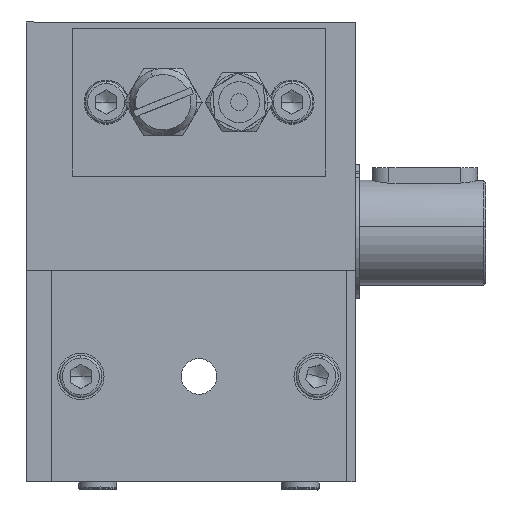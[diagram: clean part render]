
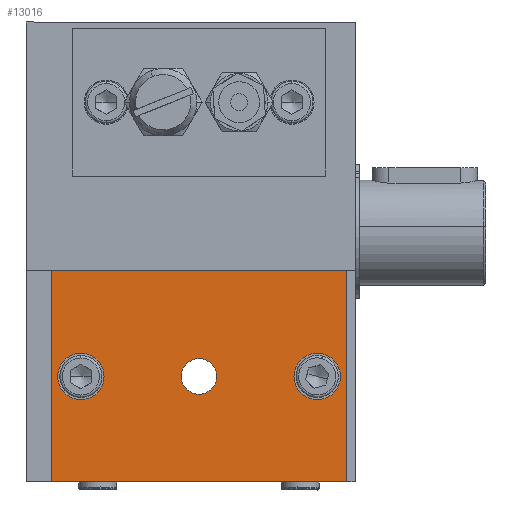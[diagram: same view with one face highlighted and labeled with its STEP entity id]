
A CAD part, front view. The second image highlights one B-rep face of the part: STEP entity #13016.
In plain terms, the highlighted planar face has unit normal (0, -1, 0).
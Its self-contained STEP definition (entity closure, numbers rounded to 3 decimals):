
#4388=CARTESIAN_POINT('',(7.5,-105.,25.));
#4389=VERTEX_POINT('',#4388);
#4405=CARTESIAN_POINT('',(18.5,-105.,25.));
#4406=VERTEX_POINT('',#4405);
#4413=CARTESIAN_POINT('',(13.,-105.,25.));
#4414=DIRECTION('',(0.0,1.0,0.0));
#4415=DIRECTION('',(-1.0,0.0,0.0));
#4416=AXIS2_PLACEMENT_3D('',#4413,#4414,#4415);
#4417=CIRCLE('',#4416,5.5);
#4418=EDGE_CURVE('',#4389,#4406,#4417,.T.);
#4451=CARTESIAN_POINT('',(63.5,-105.,25.));
#4452=VERTEX_POINT('',#4451);
#4468=CARTESIAN_POINT('',(74.5,-105.,25.));
#4469=VERTEX_POINT('',#4468);
#4476=CARTESIAN_POINT('',(69.,-105.,25.));
#4477=DIRECTION('',(0.0,1.0,0.0));
#4478=DIRECTION('',(-1.0,0.0,0.0));
#4479=AXIS2_PLACEMENT_3D('',#4476,#4477,#4478);
#4480=CIRCLE('',#4479,5.5);
#4481=EDGE_CURVE('',#4452,#4469,#4480,.T.);
#4514=CARTESIAN_POINT('',(36.793,-105.,25.));
#4515=VERTEX_POINT('',#4514);
#4531=CARTESIAN_POINT('',(45.207,-105.,25.));
#4532=VERTEX_POINT('',#4531);
#4539=CARTESIAN_POINT('',(41.,-105.,25.));
#4540=DIRECTION('',(0.0,1.0,0.0));
#4541=DIRECTION('',(-1.0,0.0,0.0));
#4542=AXIS2_PLACEMENT_3D('',#4539,#4540,#4541);
#4543=CIRCLE('',#4542,4.207);
#4544=EDGE_CURVE('',#4515,#4532,#4543,.T.);
#12733=CARTESIAN_POINT('',(41.,-105.,25.));
#12734=DIRECTION('',(0.0,1.0,0.0));
#12735=DIRECTION('',(-1.0,0.0,0.0));
#12736=AXIS2_PLACEMENT_3D('',#12733,#12734,#12735);
#12737=CIRCLE('',#12736,4.207);
#12738=EDGE_CURVE('',#4532,#4515,#12737,.T.);
#12792=CARTESIAN_POINT('',(69.,-105.,25.));
#12793=DIRECTION('',(0.0,1.0,0.0));
#12794=DIRECTION('',(-1.0,0.0,0.0));
#12795=AXIS2_PLACEMENT_3D('',#12792,#12793,#12794);
#12796=CIRCLE('',#12795,5.5);
#12797=EDGE_CURVE('',#4469,#4452,#12796,.T.);
#12857=CARTESIAN_POINT('',(13.,-105.,25.));
#12858=DIRECTION('',(0.0,1.0,0.0));
#12859=DIRECTION('',(-1.0,0.0,0.0));
#12860=AXIS2_PLACEMENT_3D('',#12857,#12858,#12859);
#12861=CIRCLE('',#12860,5.5);
#12862=EDGE_CURVE('',#4406,#4389,#12861,.T.);
#12884=CARTESIAN_POINT('',(6.,-105.,50.));
#12885=VERTEX_POINT('',#12884);
#12892=CARTESIAN_POINT('',(76.,-105.,50.));
#12893=VERTEX_POINT('',#12892);
#12894=CARTESIAN_POINT('',(76.,-105.,50.));
#12895=DIRECTION('',(-1.0,0.0,0.0));
#12896=VECTOR('',#12895,70.0);
#12897=LINE('',#12894,#12896);
#12898=EDGE_CURVE('',#12893,#12885,#12897,.T.);
#12922=CARTESIAN_POINT('',(6.,-105.,0.));
#12923=VERTEX_POINT('',#12922);
#12930=CARTESIAN_POINT('',(6.,-105.,50.));
#12931=DIRECTION('',(0.0,0.0,-1.0));
#12932=VECTOR('',#12931,50.);
#12933=LINE('',#12930,#12932);
#12934=EDGE_CURVE('',#12885,#12923,#12933,.T.);
#12953=CARTESIAN_POINT('',(76.,-105.,0.));
#12954=VERTEX_POINT('',#12953);
#12961=CARTESIAN_POINT('',(6.,-105.,0.));
#12962=DIRECTION('',(1.0,0.0,0.0));
#12963=VECTOR('',#12962,70.0);
#12964=LINE('',#12961,#12963);
#12965=EDGE_CURVE('',#12923,#12954,#12964,.T.);
#12983=CARTESIAN_POINT('',(76.,-105.,0.));
#12984=DIRECTION('',(0.0,0.0,1.0));
#12985=VECTOR('',#12984,50.);
#12986=LINE('',#12983,#12985);
#12987=EDGE_CURVE('',#12954,#12893,#12986,.T.);
#12993=CARTESIAN_POINT('',(41.,-105.,25.));
#12994=DIRECTION('',(0.0,1.0,0.0));
#12995=DIRECTION('',(1.0,0.0,0.0));
#12996=AXIS2_PLACEMENT_3D('',#12993,#12994,#12995);
#12997=PLANE('',#12996);
#12998=ORIENTED_EDGE('',*,*,#12987,.T.);
#12999=ORIENTED_EDGE('',*,*,#12898,.T.);
#13000=ORIENTED_EDGE('',*,*,#12934,.T.);
#13001=ORIENTED_EDGE('',*,*,#12965,.T.);
#13002=EDGE_LOOP('',(#12998,#12999,#13000,#13001));
#13003=FACE_OUTER_BOUND('',#13002,.T.);
#13004=ORIENTED_EDGE('',*,*,#4544,.T.);
#13005=ORIENTED_EDGE('',*,*,#12738,.T.);
#13006=EDGE_LOOP('',(#13004,#13005));
#13007=FACE_BOUND('',#13006,.T.);
#13008=ORIENTED_EDGE('',*,*,#4481,.T.);
#13009=ORIENTED_EDGE('',*,*,#12797,.T.);
#13010=EDGE_LOOP('',(#13008,#13009));
#13011=FACE_BOUND('',#13010,.T.);
#13012=ORIENTED_EDGE('',*,*,#4418,.T.);
#13013=ORIENTED_EDGE('',*,*,#12862,.T.);
#13014=EDGE_LOOP('',(#13012,#13013));
#13015=FACE_BOUND('',#13014,.T.);
#13016=ADVANCED_FACE('',(#13003,#13007,#13011,#13015),#12997,.F.);
